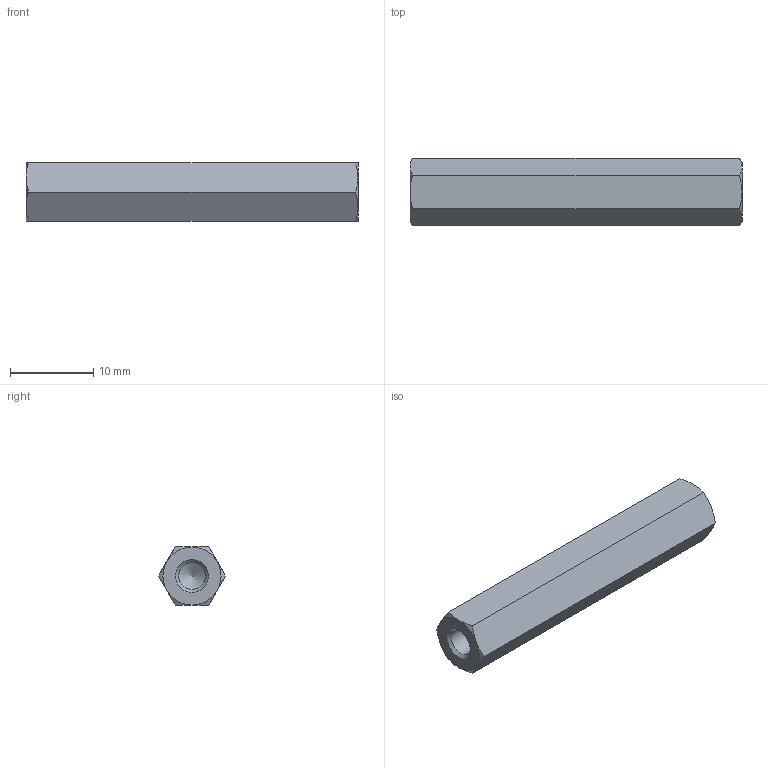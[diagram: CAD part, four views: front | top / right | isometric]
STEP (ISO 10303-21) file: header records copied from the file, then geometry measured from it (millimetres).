
FILE_DESCRIPTION( ( 'STEP AP203' ), '1' );
FILE_NAME( 'C:/Temp/Ganter_Step_05_03_2020/data/3_2/gn6220/gn6220_st/Spacer GN 6220-ST-M4-40-A.stp', '2020-03-13T05:42:24', ( 'License CC BY-ND 4.0' ), ( 'CADENAS' ), ' ', 'PARTsolutions', ' ' );
FILE_SCHEMA( ( 'CONFIG_CONTROL_DESIGN' ) );
Length unit declared in the file: millimetre
Products named in the file (1): _Spacer GN 6220-ST-M4-40-A
Bounding box: 40 x 8.08 x 7 mm (x, y, z)
Volume: 1461.9 mm3; surface area: 1330.6 mm2
Topology: 1 solids, 1 shells, 26 faces, 57 edges, 33 vertices
Faces by surface type: cone 16, plane 8, cylinder 2
Full cylindrical faces by diameter (mm): 3.242 x2
Entity records: 750 total; most frequent: CARTESIAN_POINT 211, DIRECTION 96, ORIENTED_EDGE 96, EDGE_CURVE 48, AXIS2_PLACEMENT_3D 45, EDGE_LOOP 32, VERTEX_POINT 32, FACE_OUTER_BOUND 28
